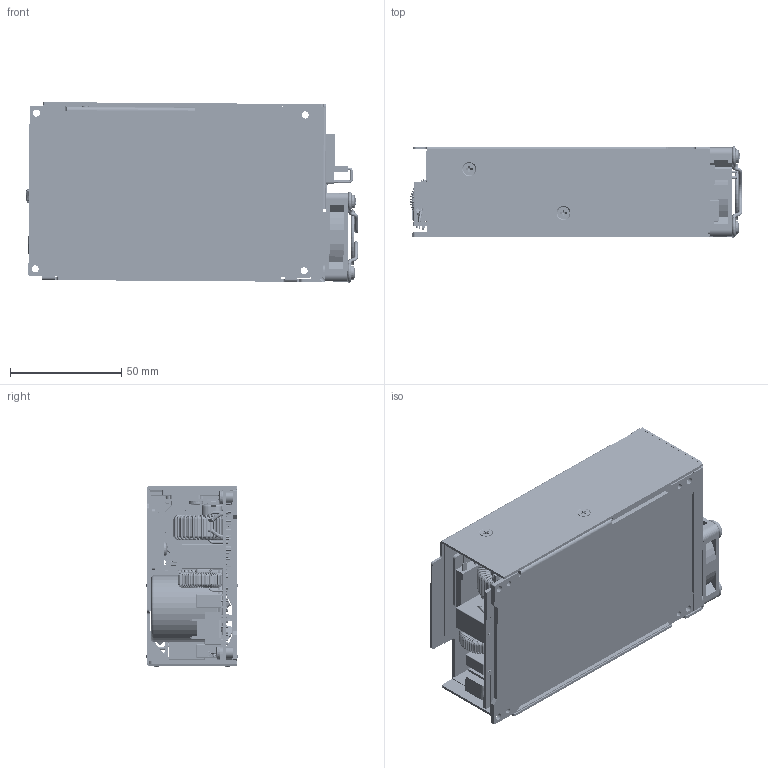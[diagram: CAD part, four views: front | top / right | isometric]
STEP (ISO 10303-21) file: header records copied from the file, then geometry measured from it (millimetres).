
FILE_DESCRIPTION (( 'STEP AP214' ), '1' );
FILE_NAME ('TPP450.STEP', '2020-07-10T03:35:21', ( 'user' ), ( '' ), 'SwSTEP 2.0', 'SolidWorks 2016', '' );
FILE_SCHEMA (( 'AUTOMOTIVE_DESIGN' ));
Length unit declared in the file: millimetre
Products named in the file (2): TPP450
Bounding box: 149.33 x 41.06 x 81.67 mm (x, y, z)
Volume: 198695.3 mm3; surface area: 258590.5 mm2
Topology: 96 solids, 96 shells, 5854 faces, 15129 edges, 9548 vertices
Faces by surface type: plane 3335, cylinder 1590, torus 701, cone 133, bspline 54, sphere 41
Full cylindrical faces by diameter (mm): 0.1 x14, 0.5 x4, 0.6 x37, 0.61 x2, 0.62 x4, 0.7 x4, 0.711 x2, 0.75 x4, 0.8 x11, 0.808 x1, 0.813 x39, 1 x18, 1.016 x65, 1.1 x4, 1.118 x3, 1.194 x8, 1.2 x2, 1.3 x8, 1.321 x18, 1.5 x2, 1.6 x26, 1.676 x2, 1.829 x2, 2.007 x2, 2.5 x17, 3 x16, 3.2 x11, 3.251 x5, 3.3 x1, 3.5 x4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
Entity records: 250906 total; most frequent: CARTESIAN_POINT 45543, ORIENTED_EDGE 28776, DIRECTION 28331, EDGE_CURVE 14388, AXIS2_PLACEMENT_3D 9693, VERTEX_POINT 9416, VECTOR 8945, LINE 8945
